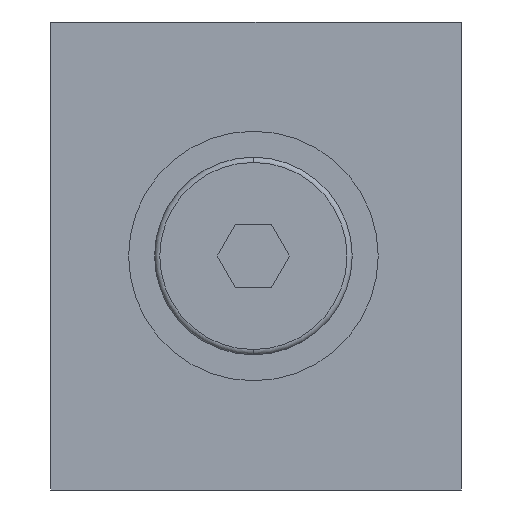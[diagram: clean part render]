
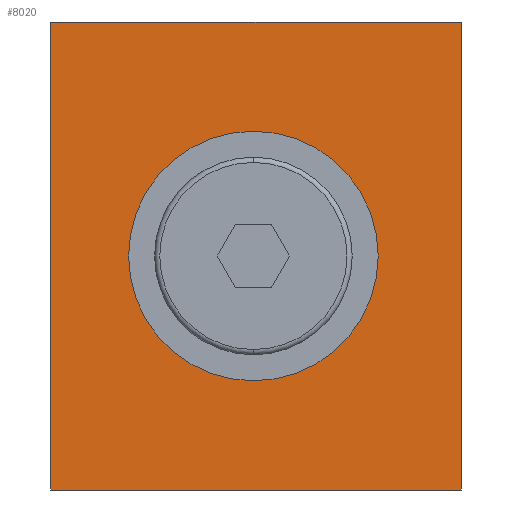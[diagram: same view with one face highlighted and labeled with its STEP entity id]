
A CAD part, left-side view. The second image highlights one B-rep face of the part: STEP entity #8020.
In plain terms, the highlighted planar face has unit normal (-1, 0, 0).
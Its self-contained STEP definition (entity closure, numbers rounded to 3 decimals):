
#161 = FACE_BOUND ( 'NONE', #6815, .T. ) ;
#193 = FACE_OUTER_BOUND ( 'NONE', #982, .T. ) ;
#332 = AXIS2_PLACEMENT_3D ( 'NONE', #9349, #9319, #9308 ) ;
#547 = VERTEX_POINT ( 'NONE', #6127 ) ;
#763 = VECTOR ( 'NONE', #3848, 1000. ) ;
#982 = EDGE_LOOP ( 'NONE', ( #3412, #5323, #4152, #7481 ) ) ;
#1065 = CARTESIAN_POINT ( 'NONE',  ( 0., -19.75, -23.207 ) ) ;
#1833 = CARTESIAN_POINT ( 'NONE',  ( 0., 0.25, 12. ) ) ;
#3020 = DIRECTION ( 'NONE',  ( 0., 0., 1. ) ) ;
#3320 = DIRECTION ( 'NONE',  ( 0., 0., 1. ) ) ;
#3322 = CARTESIAN_POINT ( 'NONE',  ( 0., 19.75, -23.207 ) ) ;
#3412 = ORIENTED_EDGE ( 'NONE', *, *, #6648, .F. ) ;
#3760 = CARTESIAN_POINT ( 'NONE',  ( 0., 19.75, -22.5 ) ) ;
#3848 = DIRECTION ( 'NONE',  ( 0., 1., 0. ) ) ;
#3911 = DIRECTION ( 'NONE',  ( 0., 0., 1. ) ) ;
#3978 = DIRECTION ( 'NONE',  ( -1., 0., 0. ) ) ;
#3993 = EDGE_CURVE ( 'NONE', #8330, #6423, #6773, .T. ) ;
#4003 = CARTESIAN_POINT ( 'NONE',  ( 0., -20.457, 22.5 ) ) ;
#4005 = VERTEX_POINT ( 'NONE', #3760 ) ;
#4088 = CARTESIAN_POINT ( 'NONE',  ( 0., -20.457, -22.5 ) ) ;
#4105 = CARTESIAN_POINT ( 'NONE',  ( 0., -19.75, -22.5 ) ) ;
#4152 = ORIENTED_EDGE ( 'NONE', *, *, #7031, .T. ) ;
#4180 = CARTESIAN_POINT ( 'NONE',  ( 0., 0.25, 0. ) ) ;
#4422 = EDGE_CURVE ( 'NONE', #547, #7942, #6458, .T. ) ;
#4514 = DIRECTION ( 'NONE',  ( 0., 1., 0. ) ) ;
#4577 = CIRCLE ( 'NONE', #332, 12. ) ;
#4743 = LINE ( 'NONE', #1065, #4754 ) ;
#4754 = VECTOR ( 'NONE', #3020, 1000. ) ;
#4994 = AXIS2_PLACEMENT_3D ( 'NONE', #8998, #6888, #8978 ) ;
#5067 = VECTOR ( 'NONE', #4514, 1000. ) ;
#5074 = LINE ( 'NONE', #4088, #5067 ) ;
#5323 = ORIENTED_EDGE ( 'NONE', *, *, #7020, .F. ) ;
#5481 = CARTESIAN_POINT ( 'NONE',  ( 0., -19.75, 22.5 ) ) ;
#5678 = AXIS2_PLACEMENT_3D ( 'NONE', #4180, #3978, #3911 ) ;
#6127 = CARTESIAN_POINT ( 'NONE',  ( 0., 0.25, -12. ) ) ;
#6322 = CARTESIAN_POINT ( 'NONE',  ( 0., 19.75, 22.5 ) ) ;
#6423 = VERTEX_POINT ( 'NONE', #6322 ) ;
#6458 = CIRCLE ( 'NONE', #5678, 12. ) ;
#6459 = ORIENTED_EDGE ( 'NONE', *, *, #4422, .F. ) ;
#6571 = VECTOR ( 'NONE', #3320, 1000. ) ;
#6618 = LINE ( 'NONE', #3322, #6571 ) ;
#6648 = EDGE_CURVE ( 'NONE', #4005, #6423, #6618, .T. ) ;
#6773 = LINE ( 'NONE', #4003, #763 ) ;
#6815 = EDGE_LOOP ( 'NONE', ( #7884, #6459 ) ) ;
#6888 = DIRECTION ( 'NONE',  ( -1., 0., 0. ) ) ;
#7020 = EDGE_CURVE ( 'NONE', #7282, #4005, #5074, .T. ) ;
#7031 = EDGE_CURVE ( 'NONE', #7282, #8330, #4743, .T. ) ;
#7050 = EDGE_CURVE ( 'NONE', #7942, #547, #4577, .T. ) ;
#7282 = VERTEX_POINT ( 'NONE', #4105 ) ;
#7481 = ORIENTED_EDGE ( 'NONE', *, *, #3993, .T. ) ;
#7884 = ORIENTED_EDGE ( 'NONE', *, *, #7050, .F. ) ;
#7942 = VERTEX_POINT ( 'NONE', #1833 ) ;
#8020 = ADVANCED_FACE ( 'NONE', ( #193, #161 ), #9182, .T. ) ;
#8330 = VERTEX_POINT ( 'NONE', #5481 ) ;
#8978 = DIRECTION ( 'NONE',  ( 0., 0., 1. ) ) ;
#8998 = CARTESIAN_POINT ( 'NONE',  ( 0., 19.75, -22.5 ) ) ;
#9182 = PLANE ( 'NONE',  #4994 ) ;
#9308 = DIRECTION ( 'NONE',  ( 0., 0., 1. ) ) ;
#9319 = DIRECTION ( 'NONE',  ( -1., 0., 0. ) ) ;
#9349 = CARTESIAN_POINT ( 'NONE',  ( 0., 0.25, 0. ) ) ;
